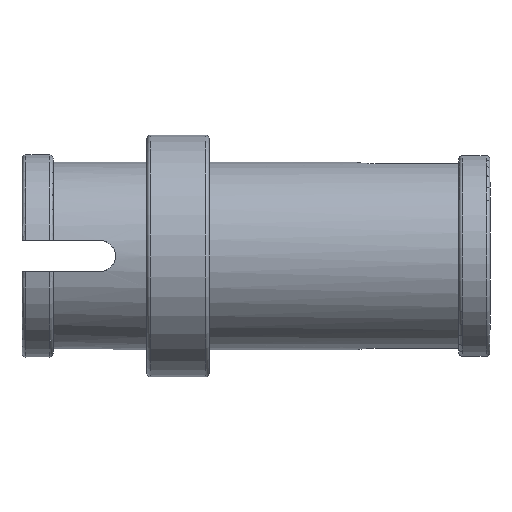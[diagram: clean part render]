
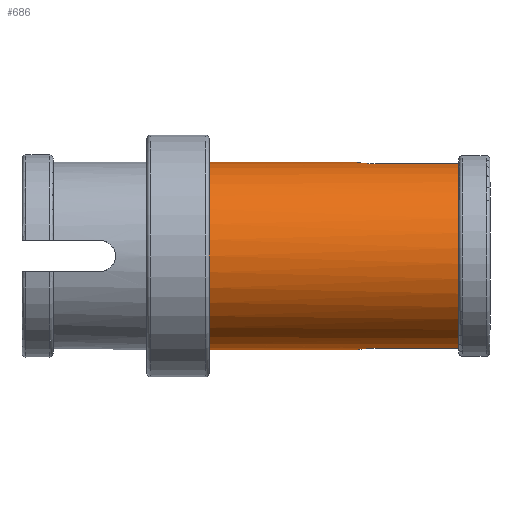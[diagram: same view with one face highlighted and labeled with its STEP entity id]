
A CAD part, front view. The second image highlights one B-rep face of the part: STEP entity #686.
In plain terms, the highlighted cylindrical face has radius 2.4 mm (diameter 4.8 mm), a full revolution.
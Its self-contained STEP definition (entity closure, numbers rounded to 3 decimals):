
#30=B_SPLINE_CURVE_WITH_KNOTS('',3,(#1037,#1038,#1039,#1040,#1041),
 .UNSPECIFIED.,.F.,.F.,(4,1,4),(0.,0.001,0.001),
 .UNSPECIFIED.);
#31=B_SPLINE_CURVE_WITH_KNOTS('',3,(#1046,#1047,#1048,#1049,#1050),
 .UNSPECIFIED.,.F.,.F.,(4,1,4),(0.,0.001,0.001),
 .UNSPECIFIED.);
#77=CIRCLE('',#743,2.4);
#79=CIRCLE('',#746,2.4);
#80=CIRCLE('',#748,2.4);
#118=ORIENTED_EDGE('',*,*,#322,.F.);
#119=ORIENTED_EDGE('',*,*,#323,.F.);
#120=ORIENTED_EDGE('',*,*,#324,.F.);
#121=ORIENTED_EDGE('',*,*,#325,.F.);
#122=ORIENTED_EDGE('',*,*,#321,.T.);
#123=ORIENTED_EDGE('',*,*,#326,.F.);
#124=ORIENTED_EDGE('',*,*,#327,.F.);
#125=ORIENTED_EDGE('',*,*,#328,.F.);
#126=ORIENTED_EDGE('',*,*,#317,.T.);
#317=EDGE_CURVE('',#417,#419,#77,.T.);
#321=EDGE_CURVE('',#421,#423,#79,.T.);
#322=EDGE_CURVE('',#424,#424,#80,.T.);
#323=EDGE_CURVE('',#425,#419,#486,.F.);
#324=EDGE_CURVE('',#426,#425,#30,.T.);
#325=EDGE_CURVE('',#421,#426,#487,.T.);
#326=EDGE_CURVE('',#427,#423,#488,.F.);
#327=EDGE_CURVE('',#428,#427,#31,.T.);
#328=EDGE_CURVE('',#417,#428,#489,.T.);
#417=VERTEX_POINT('',#1017);
#419=VERTEX_POINT('',#1021);
#421=VERTEX_POINT('',#1026);
#423=VERTEX_POINT('',#1030);
#424=VERTEX_POINT('',#1034);
#425=VERTEX_POINT('',#1036);
#426=VERTEX_POINT('',#1042);
#427=VERTEX_POINT('',#1045);
#428=VERTEX_POINT('',#1051);
#486=LINE('',#1035,#534);
#487=LINE('',#1043,#535);
#488=LINE('',#1044,#536);
#489=LINE('',#1052,#537);
#534=VECTOR('',#843,1000.);
#535=VECTOR('',#844,1000.);
#536=VECTOR('',#845,1000.);
#537=VECTOR('',#846,1000.);
#578=EDGE_LOOP('',(#118));
#579=EDGE_LOOP('',(#119,#120,#121,#122,#123,#124,#125,#126));
#626=FACE_BOUND('',#578,.T.);
#627=FACE_BOUND('',#579,.T.);
#672=CYLINDRICAL_SURFACE('',#747,2.4);
#686=ADVANCED_FACE('',(#626,#627),#672,.T.);
#743=AXIS2_PLACEMENT_3D('',#1022,#829,#830);
#746=AXIS2_PLACEMENT_3D('',#1031,#837,#838);
#747=AXIS2_PLACEMENT_3D('',#1032,#839,#840);
#748=AXIS2_PLACEMENT_3D('',#1033,#841,#842);
#829=DIRECTION('',(-1.,0.,0.));
#830=DIRECTION('',(0.,0.,1.));
#837=DIRECTION('',(-1.,0.,0.));
#838=DIRECTION('',(0.,0.,1.));
#839=DIRECTION('',(-1.,0.,0.));
#840=DIRECTION('',(0.,0.,1.));
#841=DIRECTION('',(-1.,0.,0.));
#842=DIRECTION('',(0.,0.,1.));
#843=DIRECTION('',(-1.,0.,0.));
#844=DIRECTION('',(-1.,0.,0.));
#845=DIRECTION('',(-1.,0.,0.));
#846=DIRECTION('',(-1.,0.,0.));
#1017=CARTESIAN_POINT('',(7.2,0.4,2.366));
#1021=CARTESIAN_POINT('',(7.2,0.4,-2.366));
#1022=CARTESIAN_POINT('',(7.2,0.,0.));
#1026=CARTESIAN_POINT('',(7.2,-0.4,-2.366));
#1030=CARTESIAN_POINT('',(7.2,-0.4,2.366));
#1031=CARTESIAN_POINT('',(7.2,0.,0.));
#1032=CARTESIAN_POINT('',(-60.,0.,0.));
#1033=CARTESIAN_POINT('',(0.8,0.,0.));
#1034=CARTESIAN_POINT('',(0.8,0.,2.4));
#1035=CARTESIAN_POINT('',(-60.,0.4,-2.366));
#1036=CARTESIAN_POINT('',(5.,0.4,-2.366));
#1037=CARTESIAN_POINT('',(5.,-0.4,-2.366));
#1038=CARTESIAN_POINT('',(4.788,-0.4,-2.366));
#1039=CARTESIAN_POINT('',(4.412,-0.001,-2.434));
#1040=CARTESIAN_POINT('',(4.788,0.4,-2.366));
#1041=CARTESIAN_POINT('',(5.,0.4,-2.366));
#1042=CARTESIAN_POINT('',(5.,-0.4,-2.366));
#1043=CARTESIAN_POINT('',(-60.,-0.4,-2.366));
#1044=CARTESIAN_POINT('',(-60.,-0.4,2.366));
#1045=CARTESIAN_POINT('',(5.,-0.4,2.366));
#1046=CARTESIAN_POINT('',(5.,0.4,2.366));
#1047=CARTESIAN_POINT('',(4.788,0.4,2.366));
#1048=CARTESIAN_POINT('',(4.412,0.001,2.434));
#1049=CARTESIAN_POINT('',(4.788,-0.4,2.366));
#1050=CARTESIAN_POINT('',(5.,-0.4,2.366));
#1051=CARTESIAN_POINT('',(5.,0.4,2.366));
#1052=CARTESIAN_POINT('',(-60.,0.4,2.366));
